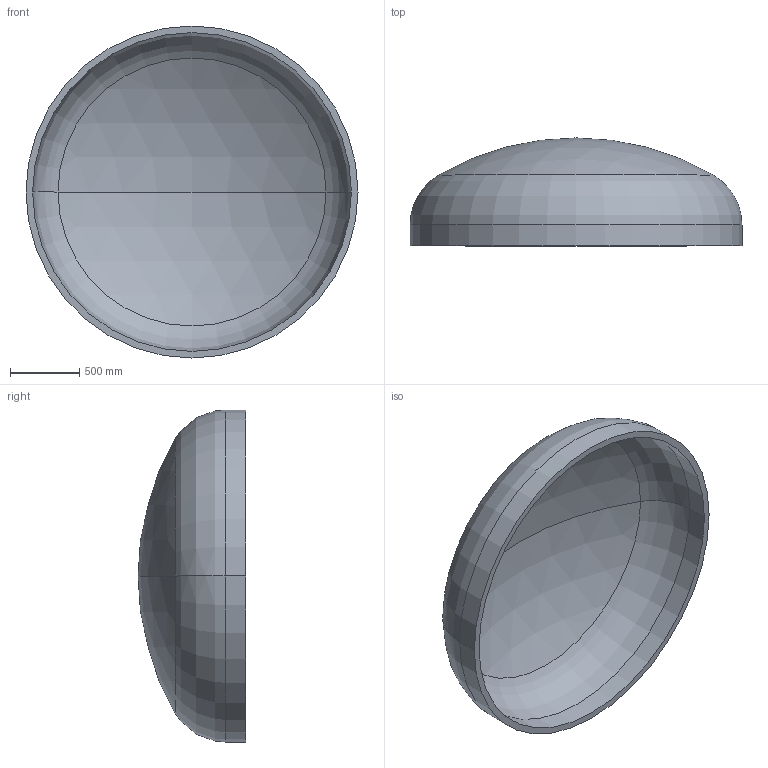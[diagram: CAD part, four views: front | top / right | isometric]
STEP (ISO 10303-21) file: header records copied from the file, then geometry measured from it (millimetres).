
FILE_DESCRIPTION (( 'STEP AP203' ), '1' );
FILE_NAME ('DIN 28013 Korbbogenform_-_Boden DIN 28013 - 2400 x 150 - I - s=48.step', '2016-07-01T15:25:37', ( '' ), ( '' ), 'SwSTEP 2.0', 'SolidWorks 2013', '' );
FILE_SCHEMA (( 'CONFIG_CONTROL_DESIGN' ));
Length unit declared in the file: millimetre
Products named in the file (1): DIN 28013 Korbbogenform_-_Boden DIN 28013 - 2400 x 150 - I - s=48
Bounding box: 2400 x 779.73 x 2400 mm (x, y, z)
Volume: 346193913.4 mm3; surface area: 14784240.5 mm2
Topology: 1 solids, 1 shells, 13 faces, 24 edges, 14 vertices
Faces by surface type: torus 4, cylinder 4, sphere 4, plane 1
Entity records: 407 total; most frequent: DIRECTION 72, CARTESIAN_POINT 52, ORIENTED_EDGE 48, AXIS2_PLACEMENT_3D 34, EDGE_CURVE 24, CIRCLE 20, VERTEX_POINT 14, EDGE_LOOP 14
